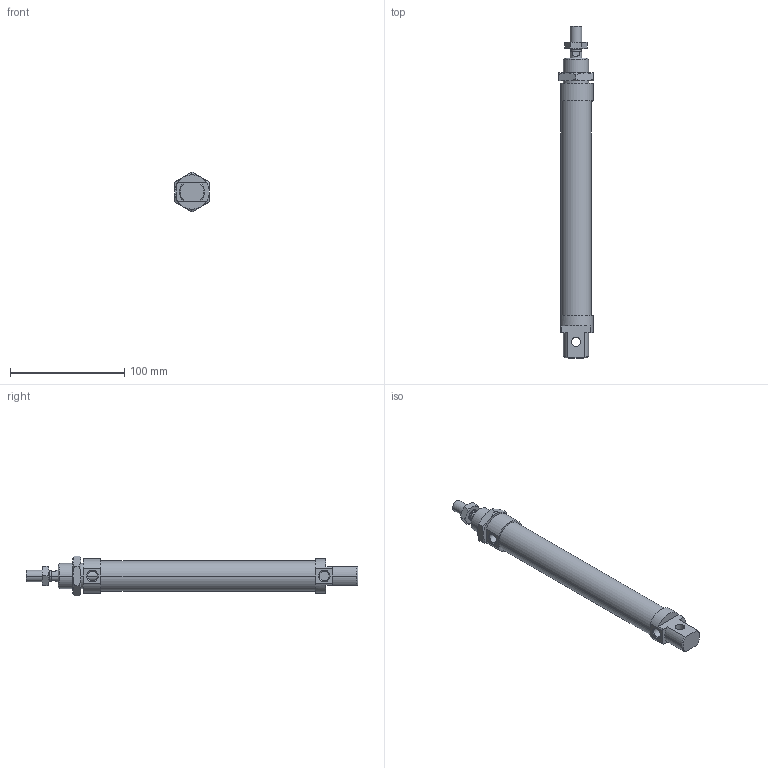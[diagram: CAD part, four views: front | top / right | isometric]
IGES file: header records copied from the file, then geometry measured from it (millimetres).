
Global section: file name: No Iges File Name specified; native system: AutoDesk Inventor R6.0; preprocessor: AutoDesk Inventor Iges Exporter R6.0; author: No Author specified; organization: No Organization specified; date: 20030407.191557; units: millimetre
Bounding box: 30 x 290 x 34.64 mm (x, y, z)
Volume: 142819.1 mm3; surface area: 39338.6 mm2
Topology: 4 solids, 4 shells, 124 faces, 281 edges, 170 vertices
Faces by surface type: plane 41, cone 38, bspline 21, cylinder 18, revolution 6
